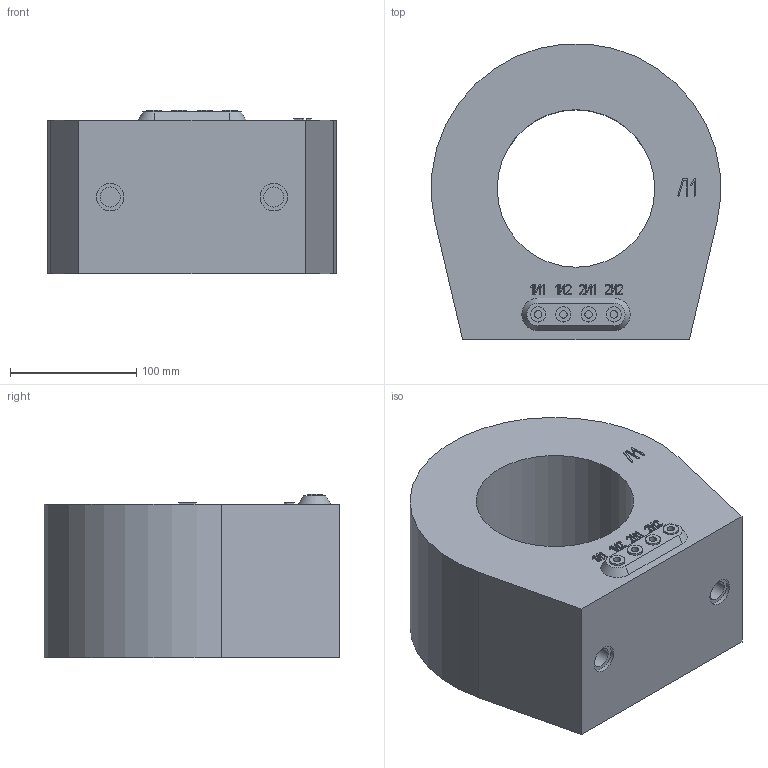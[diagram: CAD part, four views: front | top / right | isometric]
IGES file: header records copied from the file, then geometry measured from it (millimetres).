
Start section: IGES file generated from Kompas f.0 for Windows drawing by the IGES translator from Ascon Ltd., translator version IGESOUT-5.1.
Global section: file name: C:\Ðàáîòà\Èçâåùåíèÿ 5\ÒØË-ÍÒÇ-0,66-11....14 (ÍÒÇ.08-071-2026)\3D\ÒØË-ÍÒÇ-0.66-13À.igs; native system: Kompas( 32 bit ) for Windows; preprocessor: 1.0; author: Ïîëüçîâàòåëü Windows; organization: Q; date: -17740623:053448; units: millimetre
Bounding box: 229.6 x 234.58 x 130 mm (x, y, z)
Volume: 4076653.7 mm3; surface area: 215416.1 mm2
Topology: 1 solids, 1 shells, 576 faces, 1641 edges, 1094 vertices
Faces by surface type: revolution 387, bspline 189
